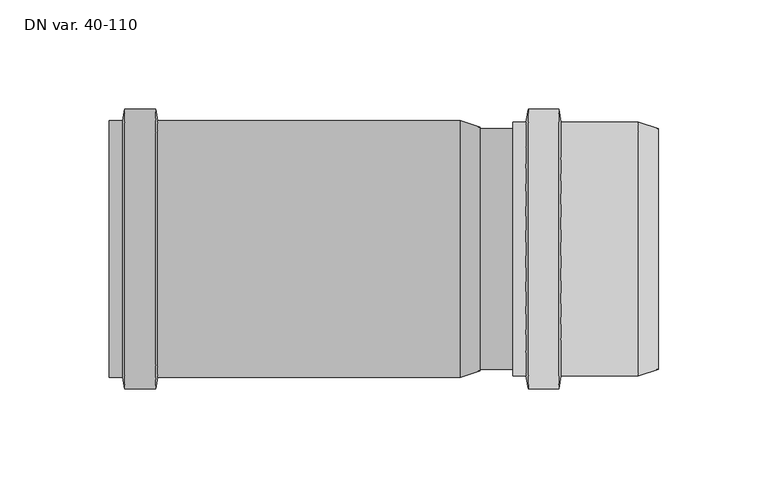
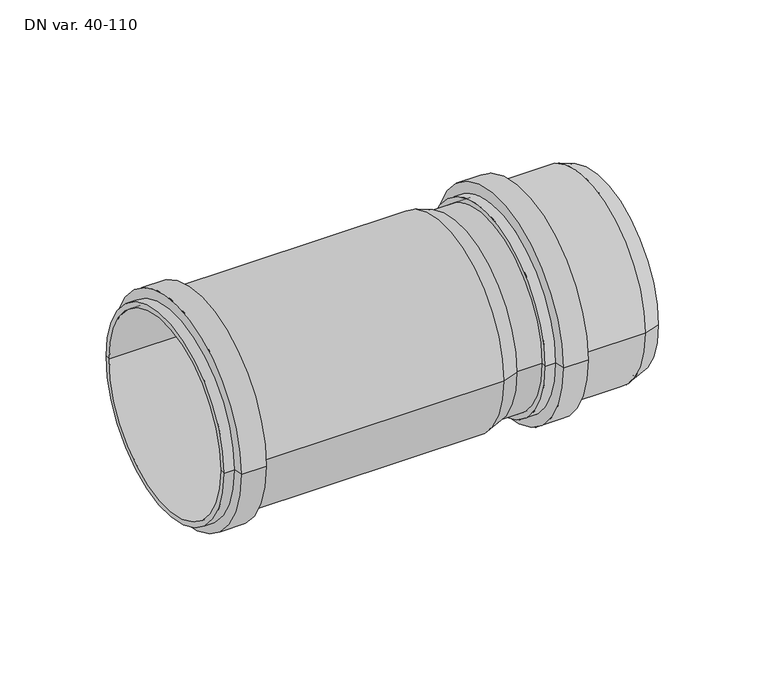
"""IFC4 building model written with IfcOpenShell, lengths in millimetres: pipe fitting geometry, PP MASTER 3+ SOK LANG : DN var. 40-110."""

from ifc_helpers import new_model, si_unit, point, frame, origin, origin_2d, place, context, project, spatial, polyline, circle_curve, trimmed, segment, composite_curve, outline, extrude, source, transform, mapped, element, save
from ifc_brep_helpers import plane_surface, cylinder_surface, revolved_surface, advanced_brep


def dn_var_40_110_8c8b9e17(model_context):
    return source(origin(), model_context, "Body", "SolidModel", [
        advanced_brep(
        [(14.25, -55.65, 0.0), (14.25, 55.65, 0.0), (-155.25, 55.65, 0.0), (-155.25, -55.65, 0.0), (5.25, -58.65, 0.0), (5.25, 58.65, 0.0), (-133.15, -58.65, 0.0), (-133.15, 58.65, 0.0), (-134.0757166, -63.9, 0.0), (-134.0757166, 63.9, 0.0), (-148.2242834, -63.9, 0.0), (-148.2242834, 63.9, 0.0), (-149.15, -58.65, 0.0), (-149.15, 58.65, 0.0), (-155.25, -58.65, 0.0), (-155.25, 58.65, 0.0)],
        [
            (0, 1, circle_curve(frame((14.25, 0.0, 0.0), z_axis=(1.0, 0.0, 0.0), x_axis=(0.0, 1.000000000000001, 0.0)), 55.65)),
            (1, 2),
            (2, 3, circle_curve(frame((-155.25, 0.0, 0.0), z_axis=(-1.0, 0.0, 0.0), x_axis=(0.0, 1.000000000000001, 0.0)), 55.65)),
            (3, 0),
            (1, 0, circle_curve(frame((14.25, 0.0, 0.0), z_axis=(1.0, 0.0, 0.0), x_axis=(0.0, 1.000000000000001, 0.0)), 55.65)),
            (3, 2, circle_curve(frame((-155.25, 0.0, 0.0), z_axis=(-1.0, 0.0, 0.0), x_axis=(0.0, 1.000000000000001, 0.0)), 55.65)),
            (4, 5, circle_curve(frame((5.25, 0.0, 0.0), z_axis=(1.0, 0.0, 0.0), x_axis=(0.0, 1.000000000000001, 0.0)), 58.65)),
            (5, 1),
            (0, 4),
            (5, 4, circle_curve(frame((5.25, 0.0, 0.0), z_axis=(1.0, 0.0, 0.0), x_axis=(0.0, 1.000000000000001, 0.0)), 58.65)),
            (6, 7, circle_curve(frame((-133.15, 0.0, 0.0), z_axis=(1.0, 0.0, 0.0), x_axis=(0.0, 1.000000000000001, 0.0)), 58.65)),
            (7, 5),
            (4, 6),
            (7, 6, circle_curve(frame((-133.15, 0.0, 0.0), z_axis=(1.0, 0.0, 0.0), x_axis=(0.0, 1.000000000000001, 0.0)), 58.65)),
            (8, 9, circle_curve(frame((-134.0757166, 0.0, 0.0), z_axis=(1.0, 0.0, 0.0), x_axis=(0.0, 1.000000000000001, 0.0)), 63.9)),
            (9, 7),
            (6, 8),
            (9, 8, circle_curve(frame((-134.0757166, 0.0, 0.0), z_axis=(1.0, 0.0, 0.0), x_axis=(0.0, 1.000000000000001, 0.0)), 63.9)),
            (10, 11, circle_curve(frame((-148.2242834, 0.0, 0.0), z_axis=(1.0, 0.0, 0.0), x_axis=(0.0, 1.000000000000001, 0.0)), 63.9)),
            (11, 9),
            (8, 10),
            (11, 10, circle_curve(frame((-148.2242834, 0.0, 0.0), z_axis=(1.0, 0.0, 0.0), x_axis=(0.0, 1.000000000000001, 0.0)), 63.9)),
            (12, 13, circle_curve(frame((-149.15, 0.0, 0.0), z_axis=(1.0, 0.0, 0.0), x_axis=(0.0, 1.000000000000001, 0.0)), 58.65)),
            (13, 11),
            (10, 12),
            (13, 12, circle_curve(frame((-149.15, 0.0, 0.0), z_axis=(1.0, 0.0, 0.0), x_axis=(0.0, 1.000000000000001, 0.0)), 58.65)),
            (14, 15, circle_curve(frame((-155.25, 0.0, 0.0), z_axis=(1.0, 0.0, 0.0), x_axis=(0.0, 1.000000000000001, 0.0)), 58.65)),
            (15, 13),
            (12, 14),
            (15, 14, circle_curve(frame((-155.25, 0.0, 0.0), z_axis=(1.0, 0.0, 0.0), x_axis=(0.0, 1.000000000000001, 0.0)), 58.65)),
            (2, 15),
            (14, 3),
        ],
        [
            revolved_surface(polyline([(-155.25, 55.65000000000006, 0.0), (14.250000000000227, 55.65000000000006, 0.0)]), (-165.25, 0.0, 0.0), (-1.0000000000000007, 0.0, 0.0)),
            revolved_surface(polyline([(14.25, 55.65, 0.0), (5.25, 58.65, 0.0)]), (-165.25, 0.0, 0.0), (-1.0000000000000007, 0.0, 0.0)),
            cylinder_surface(frame((-165.25, 0.0, 0.0), z_axis=(-1.0000000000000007, 0.0, 0.0), x_axis=(0.0, 1.000000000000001, 0.0)), 58.65),
            revolved_surface(polyline([(-133.15, 58.65, 0.0), (-134.0757166, 63.9, 0.0)]), (-165.25, 0.0, 0.0), (-1.0000000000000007, 0.0, 0.0)),
            cylinder_surface(frame((-165.25, 0.0, 0.0), z_axis=(-1.0000000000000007, 0.0, 0.0), x_axis=(0.0, 1.000000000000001, 0.0)), 63.9),
            revolved_surface(polyline([(-148.2242834, 63.9, 0.0), (-149.15, 58.65, 0.0)]), (-165.25, 0.0, 0.0), (-1.0000000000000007, 0.0, 0.0)),
            plane_surface(frame((-155.25, 0.0, 0.0), z_axis=(-1.0, 0.0, 0.0), x_axis=(0.0, 1.0, 0.0))),
        ],
        [
            (0, [[1, 2, 3, 4]]),
            (0, [[5, -4, 6, -2]]),
            (1, [[7, 8, -1, 9]]),
            (1, [[10, -9, -5, -8]]),
            (2, [[11, 12, -7, 13]]),
            (2, [[14, -13, -10, -12]]),
            (3, [[15, 16, -11, 17]]),
            (3, [[18, -17, -14, -16]]),
            (4, [[19, 20, -15, 21]]),
            (4, [[22, -21, -18, -20]]),
            (5, [[23, 24, -19, 25]]),
            (5, [[26, -25, -22, -24]]),
            (2, [[27, 28, -23, 29]]),
            (2, [[30, -29, -26, -28]]),
            (6, [[-3, 31, -27, 32]]),
            (6, [[-6, -32, -30, -31]]),
        ],
    ),
        advanced_brep(
        [(29.25, 55.0, 0.0), (29.25, -55.0, 0.0), (95.75, -55.0, 0.0), (95.75, 55.0, 0.0), (86.75, -58.0, 0.0), (86.75, 58.0, 0.0), (51.35, -58.0, 0.0), (51.35, 58.0, 0.0), (50.3096708, -63.9, 0.0), (50.3096708, 63.9, 0.0), (36.3903292, -63.9, 0.0), (36.3903292, 63.9, 0.0), (35.35, -58.0, 0.0), (35.35, 58.0, 0.0), (29.25, -58.0, 0.0), (29.25, 58.0, 0.0)],
        [
            (0, 1, circle_curve(frame((29.25, 0.0, 0.0), z_axis=(-1.0, 0.0, 0.0), x_axis=(0.0, -1.0000000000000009, 0.0)), 55.0)),
            (1, 2),
            (2, 3, circle_curve(frame((95.75, 0.0, 0.0), z_axis=(1.0, 0.0, 0.0), x_axis=(0.0, -1.0000000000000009, 0.0)), 55.0)),
            (3, 0),
            (1, 0, circle_curve(frame((29.25, 0.0, 0.0), z_axis=(-1.0, 0.0, 0.0), x_axis=(0.0, -1.0000000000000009, 0.0)), 55.0)),
            (3, 2, circle_curve(frame((95.75, 0.0, 0.0), z_axis=(1.0, 0.0, 0.0), x_axis=(0.0, -1.0000000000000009, 0.0)), 55.0)),
            (2, 4),
            (4, 5, circle_curve(frame((86.75, 0.0, 0.0), z_axis=(1.0, 0.0, 0.0), x_axis=(0.0, -1.0000000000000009, 0.0)), 58.0)),
            (5, 3),
            (5, 4, circle_curve(frame((86.75, 0.0, 0.0), z_axis=(1.0, 0.0, 0.0), x_axis=(0.0, -1.0000000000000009, 0.0)), 58.0)),
            (4, 6),
            (6, 7, circle_curve(frame((51.35, 0.0, 0.0), z_axis=(1.0, 0.0, 0.0), x_axis=(0.0, -1.0000000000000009, 0.0)), 58.0)),
            (7, 5),
            (7, 6, circle_curve(frame((51.35, 0.0, 0.0), z_axis=(1.0, 0.0, 0.0), x_axis=(0.0, -1.0000000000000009, 0.0)), 58.0)),
            (6, 8),
            (8, 9, circle_curve(frame((50.3096708, 0.0, 0.0), z_axis=(1.0, 0.0, 0.0), x_axis=(0.0, -1.0000000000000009, 0.0)), 63.9)),
            (9, 7),
            (9, 8, circle_curve(frame((50.3096708, 0.0, 0.0), z_axis=(1.0, 0.0, 0.0), x_axis=(0.0, -1.0000000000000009, 0.0)), 63.9)),
            (8, 10),
            (10, 11, circle_curve(frame((36.3903292, 0.0, 0.0), z_axis=(1.0, 0.0, 0.0), x_axis=(0.0, -1.0000000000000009, 0.0)), 63.9)),
            (11, 9),
            (11, 10, circle_curve(frame((36.3903292, 0.0, 0.0), z_axis=(1.0, 0.0, 0.0), x_axis=(0.0, -1.0000000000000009, 0.0)), 63.9)),
            (10, 12),
            (12, 13, circle_curve(frame((35.35, 0.0, 0.0), z_axis=(1.0, 0.0, 0.0), x_axis=(0.0, -1.0000000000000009, 0.0)), 58.0)),
            (13, 11),
            (13, 12, circle_curve(frame((35.35, 0.0, 0.0), z_axis=(1.0, 0.0, 0.0), x_axis=(0.0, -1.0000000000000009, 0.0)), 58.0)),
            (12, 14),
            (14, 15, circle_curve(frame((29.25, 0.0, 0.0), z_axis=(1.0, 0.0, 0.0), x_axis=(0.0, -1.0000000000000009, 0.0)), 58.0)),
            (15, 13),
            (15, 14, circle_curve(frame((29.25, 0.0, 0.0), z_axis=(1.0, 0.0, 0.0), x_axis=(0.0, -1.0000000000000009, 0.0)), 58.0)),
            (14, 1),
            (0, 15),
        ],
        [
            revolved_surface(polyline([(95.75000000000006, -55.00000000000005, 0.0), (29.250000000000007, -55.00000000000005, 0.0)]), (19.25, 0.0, 0.0), (1.0000000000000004, 0.0, 0.0)),
            revolved_surface(polyline([(86.75, -58.0, 0.0), (95.75, -55.0, 0.0)]), (19.25, 0.0, 0.0), (1.0000000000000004, 0.0, 0.0)),
            cylinder_surface(frame((19.25, 0.0, 0.0), z_axis=(1.0000000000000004, 0.0, 0.0), x_axis=(0.0, -1.0000000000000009, 0.0)), 58.0),
            revolved_surface(polyline([(50.3096708, -63.9, 0.0), (51.35, -58.0, 0.0)]), (19.25, 0.0, 0.0), (1.0000000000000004, 0.0, 0.0)),
            cylinder_surface(frame((19.25, 0.0, 0.0), z_axis=(1.0000000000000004, 0.0, 0.0), x_axis=(0.0, -1.0000000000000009, 0.0)), 63.9),
            revolved_surface(polyline([(35.35, -58.0, 0.0), (36.3903292, -63.9, 0.0)]), (19.25, 0.0, 0.0), (1.0000000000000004, 0.0, 0.0)),
            plane_surface(frame((29.25, 0.0, 0.0), z_axis=(-1.0, 0.0, 0.0), x_axis=(0.0, -1.0, 0.0))),
        ],
        [
            (0, [[1, 2, 3, 4]]),
            (0, [[5, -4, 6, -2]]),
            (1, [[-3, 7, 8, 9]]),
            (1, [[-6, -9, 10, -7]]),
            (2, [[-8, 11, 12, 13]]),
            (2, [[-10, -13, 14, -11]]),
            (3, [[-12, 15, 16, 17]]),
            (3, [[-14, -17, 18, -15]]),
            (4, [[-16, 19, 20, 21]]),
            (4, [[-18, -21, 22, -19]]),
            (5, [[-20, 23, 24, 25]]),
            (5, [[-22, -25, 26, -23]]),
            (2, [[-24, 27, 28, 29]]),
            (2, [[-26, -29, 30, -27]]),
            (6, [[-28, 31, -1, 32]]),
            (6, [[-30, -32, -5, -31]]),
        ],
    ),
        extrude(outline(composite_curve([segment(trimmed(circle_curve(origin_2d(), 55.0), [point((-55.0, 0.0))], [point((55.0, 0.0))], False, "CARTESIAN"), True, "CONTINUOUS"), segment(trimmed(circle_curve(origin_2d(), 55.0), [point((55.0, 0.0))], [point((-55.0, 0.0))], False, "CARTESIAN"), True, "CONTINUOUS")], self_intersect=False)), frame((9.75, 0.0, 0.0), z_axis=(1.0, 0.0, 0.0), x_axis=(0.0, 1.0, 0.0)), (0.0, 0.0, 1.0), 81.5),
    ])


if __name__ == "__main__":
    model = new_model("IFC4")
    model_context = context("Model", 3, world=origin())
    ifc_project = project(units=[si_unit("LENGTHUNIT", "METRE", prefix="MILLI")], contexts=[model_context])
    site = spatial("IfcSite", under=ifc_project)
    building = spatial("IfcBuilding", under=site)
    placement = place(None, origin())
    dn_var_40_110_shape = dn_var_40_110_8c8b9e17(model_context)
    element("IfcPipeFitting", 1, ObjectType="PP MASTER 3+ SOK LANG : DN var. 40-110", at=placement, inside=building, context=model_context, shape_type="MappedRepresentation", body=[
        mapped(dn_var_40_110_shape, transform((0.0, 0.0, 0.0), x_axis=(1.0, 0.0, 0.0), y_axis=(0.0, 1.0, 0.0), z_axis=(0.0, 0.0, 1.0))),
    ])
    save(model, "model.ifc")
